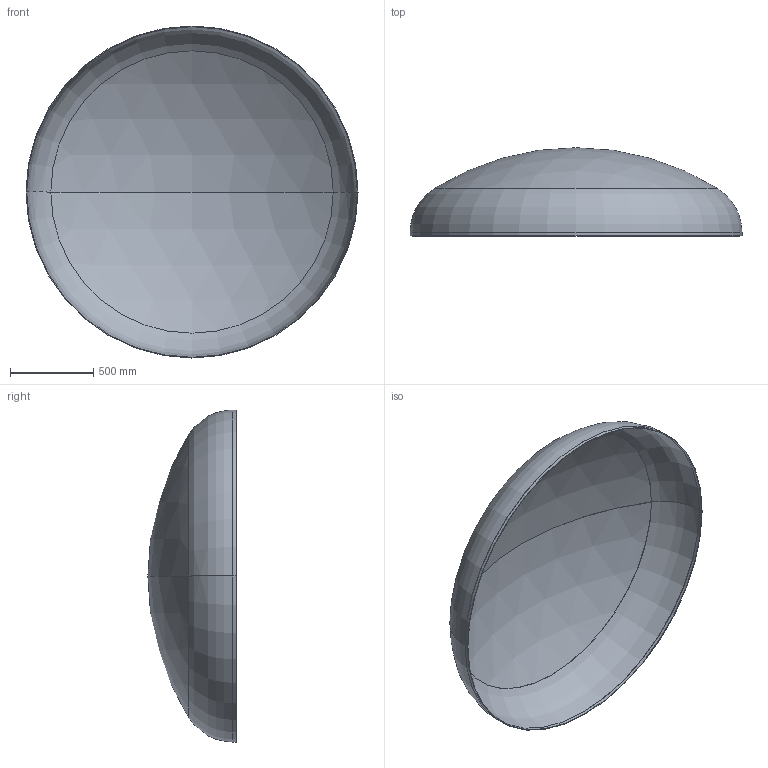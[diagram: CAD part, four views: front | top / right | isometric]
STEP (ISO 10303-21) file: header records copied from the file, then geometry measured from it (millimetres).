
FILE_DESCRIPTION (( 'STEP AP203' ), '1' );
FILE_NAME ('DIN 28013 Korbbogenform_-_Boden DIN 28013 - 2000 x 20 - I - s=4.step', '2016-07-01T13:32:23', ( '' ), ( '' ), 'SwSTEP 2.0', 'SolidWorks 2013', '' );
FILE_SCHEMA (( 'CONFIG_CONTROL_DESIGN' ));
Length unit declared in the file: millimetre
Products named in the file (1): DIN 28013 Korbbogenform_-_Boden DIN 28013 - 2000 x 20 - I - s=4
Bounding box: 2000 x 531.52 x 2000 mm (x, y, z)
Volume: 17883395.5 mm3; surface area: 8966810.1 mm2
Topology: 1 solids, 1 shells, 13 faces, 24 edges, 14 vertices
Faces by surface type: torus 4, cylinder 4, sphere 4, plane 1
Entity records: 407 total; most frequent: DIRECTION 72, CARTESIAN_POINT 52, ORIENTED_EDGE 48, AXIS2_PLACEMENT_3D 34, EDGE_CURVE 24, CIRCLE 20, EDGE_LOOP 14, VERTEX_POINT 14
